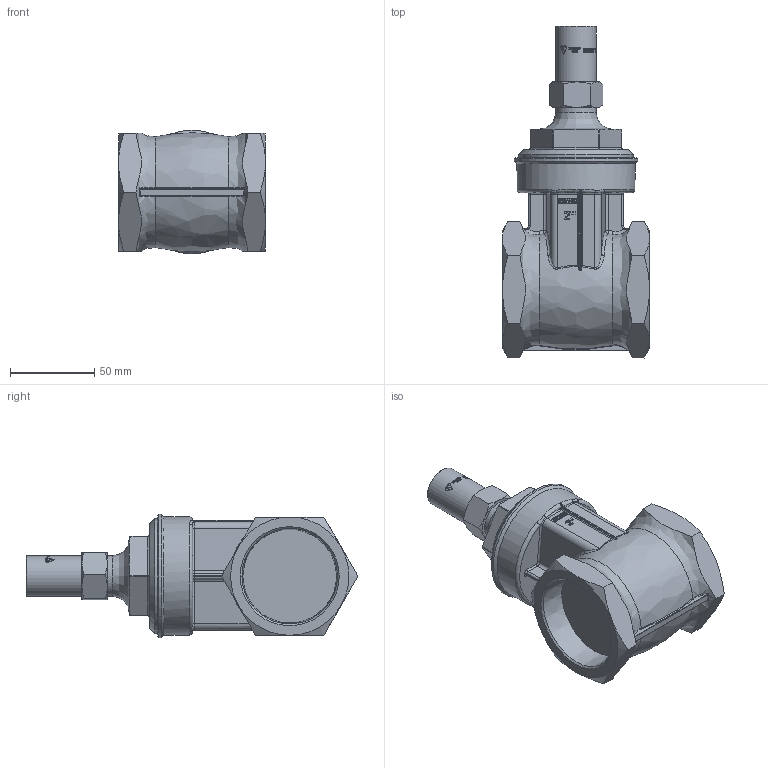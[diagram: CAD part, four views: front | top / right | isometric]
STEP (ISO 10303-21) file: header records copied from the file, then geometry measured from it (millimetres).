
FILE_DESCRIPTION((''),'2;1');
FILE_NAME('P:\Fastrack\53972_CRANE 3D\Gate Valves\Work Space\Lockshield\D237_2in\D237_2in.stp','2011-03-14T10:00:38',('btaylor'),(''),'Autodesk Inventor 2008','Autodesk Inventor 2008','');
FILE_SCHEMA(('AUTOMOTIVE_DESIGN { 1 0 10303 214 1 1 1 1 }'));
Length unit declared in the file: millimetre
Products named in the file (1): D237_2in
Bounding box: 87 x 196.51 x 73.2 mm (x, y, z)
Volume: 456939.6 mm3; surface area: 59569.9 mm2
Topology: 1 solids, 1 shells, 889 faces, 2322 edges, 1504 vertices
Faces by surface type: plane 372, bspline 358, cylinder 101, cone 50, torus 8
Full cylindrical faces by diameter (mm): 6 x1, 11.2 x1, 11.5 x1, 16.7 x1, 18 x1, 22.376 x1, 24 x2, 67.8 x1, 70 x1, 73.2 x1
Entity records: 92478 total; most frequent: CARTESIAN_POINT 72709, ORIENTED_EDGE 4540, DIRECTION 2734, EDGE_CURVE 2270, VERTEX_POINT 1492, VECTOR 1006, LINE 1006, EDGE_LOOP 996
